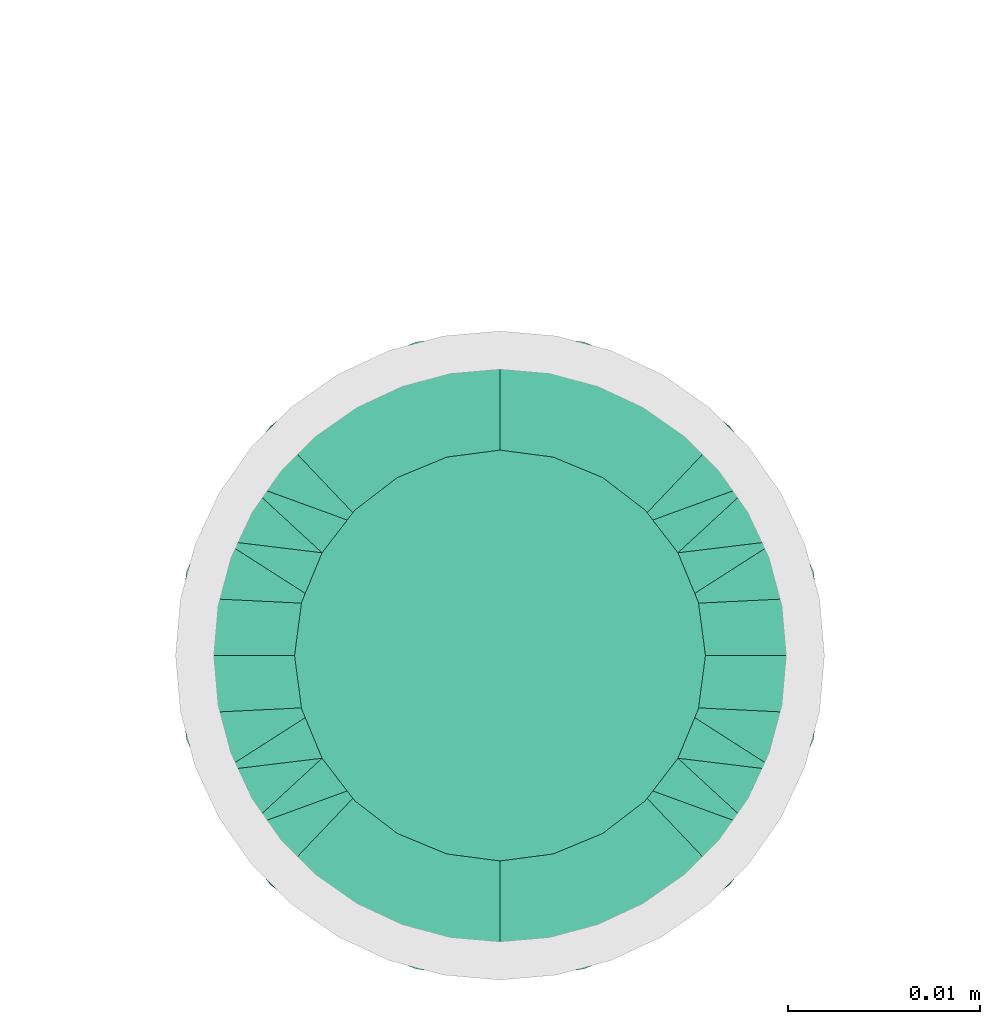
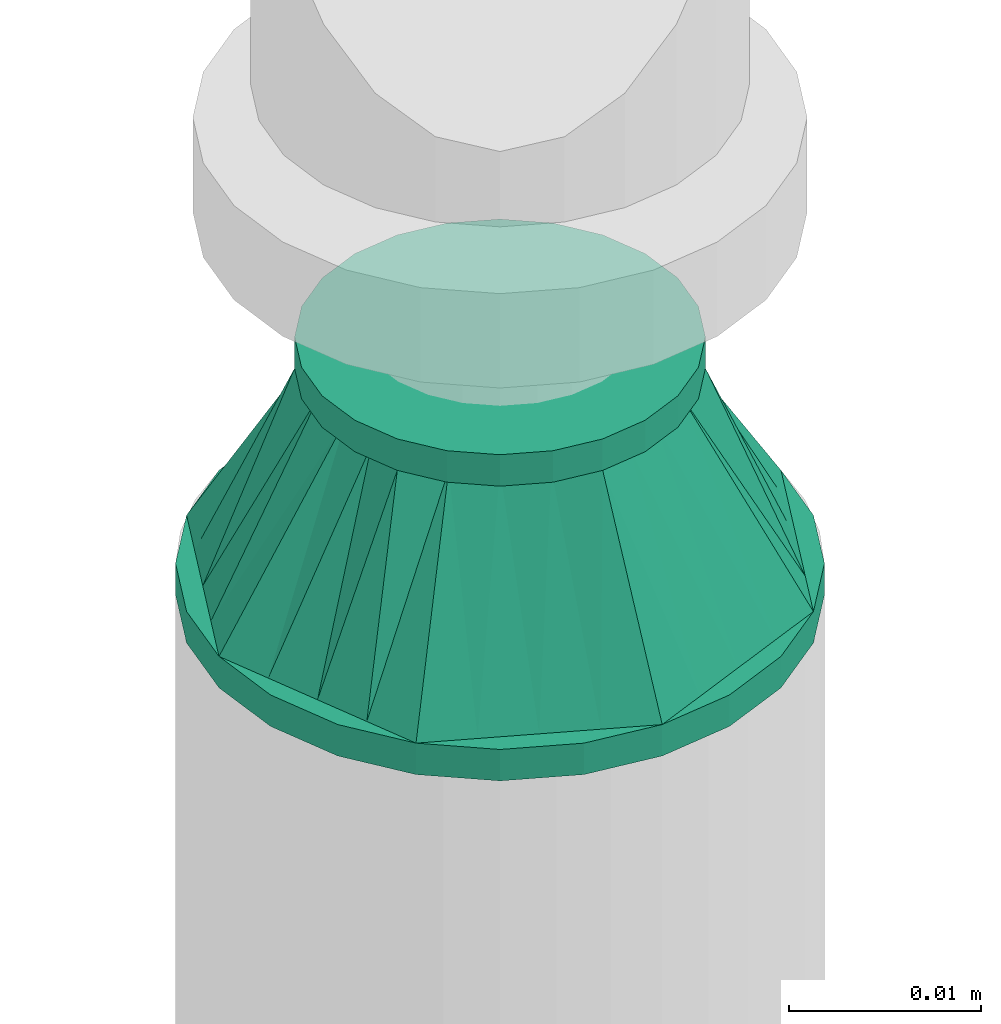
# One storey, part 9 of 44: 1 flow fitting.
"""IFC2X3 building model written with IfcOpenShell, lengths in millimetres."""

from ifc_helpers import new_model, entity, si_unit, converted_unit, derived_unit, direction, frame, origin_with_axes, place, context, subcontext, project, spatial, open_shell, surface_model, source, transform, mapped, type_object, element, save


model = new_model("IFC2X3")

# Units and contexts
model_context = context("Model", 3, precision=0.01, world=frame((0.0, 4.29681676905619e-09, 0.0)), true_north=direction((4.01073788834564e-13, 1.0)))
plan_context = context("Plan", 3, precision=0.01, world=frame((0.0, 4.29681676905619e-09, 0.0)), true_north=direction((4.01073788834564e-13, 1.0)))
body_context = subcontext(model_context, "Body", "Model", "MODEL_VIEW")
ifc_project = project(units=[converted_unit("PLANEANGLEUNIT", "DEGREE", entity("IfcPositiveLengthMeasure", 0.0174532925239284), si_unit("PLANEANGLEUNIT", "RADIAN"), dimensions=[0, 0, 0, 0, 0, 0, 0]), si_unit("AREAUNIT", "SQUARE_METRE"), si_unit("LENGTHUNIT", "METRE", prefix="MILLI"), si_unit("MASSUNIT", "GRAM", prefix="KILO"), si_unit("POWERUNIT", "WATT"), si_unit("PRESSUREUNIT", "PASCAL"), si_unit("FORCEUNIT", "NEWTON", prefix="KILO"), si_unit("ELECTRICVOLTAGEUNIT", "VOLT"), si_unit("ELECTRICCURRENTUNIT", "AMPERE"), si_unit("THERMODYNAMICTEMPERATUREUNIT", "DEGREE_CELSIUS"), si_unit("TIMEUNIT", "SECOND"), si_unit("VOLUMEUNIT", "CUBIC_METRE"), derived_unit("LINEARVELOCITYUNIT", [(si_unit("LENGTHUNIT", "METRE"), 1), (si_unit("TIMEUNIT", "SECOND"), -1)]), derived_unit("VOLUMETRICFLOWRATEUNIT", [(si_unit("VOLUMEUNIT", "CUBIC_METRE"), 1), (si_unit("TIMEUNIT", "SECOND"), -1)]), derived_unit("THERMALTRANSMITTANCEUNIT", [(si_unit("POWERUNIT", "WATT"), 1), (si_unit("THERMODYNAMICTEMPERATUREUNIT", "KELVIN"), -1), (si_unit("AREAUNIT", "SQUARE_METRE"), -1)]), derived_unit("SOUNDPRESSUREUNIT", [(si_unit("PRESSUREUNIT", "PASCAL"), 1)])], contexts=[model_context, plan_context])

# Site, building, storey
site_placement = place(None, frame((0.0, -4.29681676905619e-09, 0.0), z_axis=(0.0, 0.0, 1.0), x_axis=(1.0, 0.0, 0.0)))
site = spatial("IfcSite", under=ifc_project, at=site_placement, CompositionType="ELEMENT")
building_placement = place(site_placement, frame((0.0, 4.29681676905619e-09, 0.0), z_axis=(0.0, 0.0, 1.0), x_axis=(1.0, 0.0, 0.0)))
building = spatial("IfcBuilding", under=site, at=building_placement, Name="mc-building", CompositionType="ELEMENT")
storey_placement = place(building_placement, frame((0.0, 0.0, 207370.0), z_axis=(0.0, 0.0, 1.0), x_axis=(1.0, 0.0, 0.0)))
storey = spatial("IfcBuildingStorey", under=building, at=storey_placement, Name="Nivå E", CompositionType="ELEMENT", Elevation=207370.0)

# Flow fitting
pipe_fitting_type = type_object("IfcPipeFittingType", Name="magi_pipe_fe_reducer_centric_short_NOR", PredefinedType="TRANSITION")
shared_shape = source(origin_with_axes(), body_context, "Body", "SurfaceModel", [
    surface_model("IfcShellBasedSurfaceModel", [(-2.0, -7.56604, -7.56604), (-2.0, -10.33541, -2.76936), (-2.0, -5.35, -9.26647), (-2.0, 5.35, -9.26647), (-2.0, 10.33541, -2.76936), (-2.0, 7.56604, -7.56604), (12.4, 11.9501, 11.9501), (12.4, 0.0, 16.9), (12.4, 11.9501, -11.9501), (12.4, 16.9, 0.0), (0.0, -10.7, 0.0), (0.0, -5.35, 9.26647), (0.0, -5.35, -9.26647), (0.0, 10.7, 0.0), (12.4, 15.66253, -2.98753), (12.4, 8.96258, -13.18758), (0.0, 6.6875, -6.94985), (12.4, -15.66253, -2.98753), (12.4, -16.9, 0.0), (12.4, 5.97505, -14.42505), (0.0, 5.35, -9.26647), (12.4, 14.42505, -5.97505), (0.0, 8.025, -4.63324), (0.0, 9.3625, -2.31662), (0.0, -9.3625, -2.31662), (0.0, -8.025, -4.63324), (12.4, -14.42505, -5.97505), (12.4, 13.18758, -8.96258), (12.4, -13.18758, -8.96258), (12.4, -11.9501, -11.9501), (0.0, -6.6875, -6.94985), (12.4, -8.96258, -13.18758), (12.4, -5.97505, -14.42505), (12.4, -15.66253, 2.98753), (12.4, -8.96258, 13.18758), (0.0, -6.6875, 6.94985), (12.4, -11.9501, 11.9501), (12.4, 15.66253, 2.98753), (12.4, -5.97505, 14.42505), (12.4, -14.42505, 5.97505), (0.0, -8.025, 4.63324), (0.0, -9.3625, 2.31662), (0.0, 9.3625, 2.31662), (0.0, 8.025, 4.63324), (12.4, 14.42505, 5.97505), (12.4, -13.18758, 8.96258), (12.4, 13.18758, 8.96258), (0.0, 6.6875, 6.94985), (12.4, 8.96258, 13.18758), (0.0, 5.35, 9.26647), (12.4, 5.97505, 14.42505), (14.4, 4.37404, -16.32415), (14.4, 8.45, -14.63583), (14.4, 11.9501, -11.9501), (14.4, -8.45, -14.63583), (14.4, 16.32415, -4.37404), (14.4, 16.32415, 4.37404), (14.4, 14.63583, -8.45), (14.4, 0.0, -16.9), (14.4, -4.37404, -16.32415), (14.4, -11.9501, -11.9501), (14.4, -16.32415, -4.37404), (14.4, -14.63583, -8.45), (14.4, -16.32415, 4.37404), (14.4, 16.9, 0.0), (14.4, 14.63583, 8.45), (14.4, 11.9501, 11.9501), (14.4, 4.37404, 16.32415), (14.4, 8.45, 14.63583), (14.4, 0.0, 16.9), (14.4, -14.63583, 8.45), (14.4, -16.9, 0.0), (14.4, -8.45, 14.63583), (14.4, -11.9501, 11.9501), (14.4, -4.37404, 16.32415), (12.4, 4.37404, 16.32415), (12.4, -14.63583, 8.45), (12.4, 16.32415, 4.37404), (12.4, 8.45, 14.63583), (12.4, 14.63583, 8.45), (12.4, -8.45, 14.63583), (12.4, -4.37404, 16.32415), (12.4, -16.32415, 4.37404), (12.4, -16.32415, -4.37404), (12.4, -8.45, -14.63583), (12.4, 16.32415, -4.37404), (12.4, 14.63583, -8.45), (12.4, 8.45, -14.63583), (12.4, 4.37404, -16.32415), (12.4, 0.0, -16.9), (12.4, -14.63583, -8.45), (12.4, -4.37404, -16.32415), (-2.0, 2.76936, 10.33541), (-2.0, 0.0, 10.7), (-2.0, 5.35, 9.26647), (-2.0, 7.56604, 7.56604), (-2.0, 9.26647, 5.35), (-2.0, 10.33541, 2.76936), (-2.0, -10.33541, 2.76936), (-2.0, -2.76936, 10.33541), (-2.0, -7.56604, 7.56604), (-2.0, -5.35, 9.26647), (-2.0, -9.26647, 5.35), (-2.0, -10.7, 0.0), (-2.0, 9.26647, -5.35), (-2.0, 2.76936, -10.33541), (-2.0, -9.26647, -5.35), (-2.0, 0.0, -10.7), (-2.0, -2.76936, -10.33541), (-2.0, 10.7, 0.0), (0.0, 0.0, -10.7), (0.0, 2.76936, -10.33541), (0.0, 10.33541, -2.76936), (0.0, 7.56604, -7.56604), (0.0, -10.33541, -2.76936), (0.0, 9.26647, -5.35), (0.0, 0.0, 10.7), (0.0, -2.76936, -10.33541), (0.0, -7.56604, -7.56604), (0.0, -9.26647, -5.35), (0.0, 10.33541, 2.76936), (0.0, 9.26647, 5.35), (0.0, 7.56604, 7.56604), (0.0, 2.76936, 10.33541), (0.0, -7.56604, 7.56604), (0.0, -10.33541, 2.76936), (0.0, -9.26647, 5.35), (0.0, -2.76936, 10.33541), (0.0, 2.675, -9.26647), (0.0, -2.675, -9.26647), (12.4, 2.98753, -15.66253), (0.0, 0.0, -9.26647), (12.4, -2.98753, -15.66253), (0.0, -2.675, 9.26647), (0.0, 2.675, 9.26647), (12.4, -2.98753, 15.66253), (0.0, 0.0, 9.26647), (12.4, 2.98753, 15.66253)], [open_shell([[[0, 1, 2]], [[3, 4, 5]], [[6, 7, 8]], [[8, 9, 6]], [[10, 11, 12]], [[13, 9, 14]], [[15, 16, 8]], [[17, 18, 10]], [[15, 19, 20]], [[21, 22, 23]], [[24, 25, 26]], [[22, 21, 27]], [[28, 26, 25]], [[29, 30, 31]], [[12, 32, 31]], [[10, 18, 33]], [[34, 35, 36]], [[37, 9, 13]], [[34, 38, 11]], [[39, 40, 41]], [[42, 43, 44]], [[40, 39, 45]], [[46, 44, 43]], [[6, 47, 48]], [[49, 50, 48]], [[51, 52, 53]], [[54, 51, 53]], [[53, 55, 56]], [[55, 53, 57]], [[53, 56, 54]], [[58, 54, 59]], [[58, 51, 54]], [[60, 61, 62]], [[61, 60, 54]], [[54, 63, 61]], [[56, 55, 64]], [[56, 65, 66]], [[56, 66, 67]], [[67, 63, 54]], [[67, 66, 68]], [[63, 67, 69]], [[69, 70, 63]], [[71, 61, 63]], [[70, 72, 73]], [[70, 69, 72]], [[72, 69, 74]], [[54, 56, 67]], [[75, 76, 7]], [[77, 75, 78]], [[6, 79, 77]], [[6, 77, 78]], [[76, 75, 77]], [[80, 76, 36]], [[80, 81, 7]], [[7, 76, 80]], [[82, 76, 77]], [[82, 83, 18]], [[82, 77, 84]], [[77, 85, 8]], [[8, 85, 86]], [[8, 87, 88]], [[84, 77, 8]], [[88, 89, 8]], [[83, 29, 90]], [[29, 83, 84]], [[84, 89, 91]], [[83, 82, 84]], [[8, 89, 84]], [[85, 77, 9]], [[83, 61, 18]], [[90, 62, 83]], [[54, 29, 84]], [[90, 29, 60]], [[59, 84, 91]], [[83, 62, 61]], [[61, 71, 18]], [[59, 54, 84]], [[60, 29, 54]], [[60, 62, 90]], [[58, 59, 91]], [[91, 89, 58]], [[88, 51, 89]], [[87, 52, 88]], [[57, 8, 86]], [[87, 8, 53]], [[55, 86, 85]], [[87, 53, 52]], [[52, 51, 88]], [[64, 55, 85]], [[57, 86, 55]], [[57, 53, 8]], [[9, 64, 85]], [[89, 51, 58]], [[77, 56, 9]], [[79, 65, 77]], [[68, 6, 78]], [[79, 6, 66]], [[67, 78, 75]], [[77, 65, 56]], [[56, 64, 9]], [[67, 68, 78]], [[66, 6, 68]], [[66, 65, 79]], [[69, 67, 75]], [[75, 7, 69]], [[81, 74, 7]], [[80, 72, 81]], [[70, 36, 76]], [[80, 36, 73]], [[63, 76, 82]], [[80, 73, 72]], [[72, 74, 81]], [[71, 63, 82]], [[70, 76, 63]], [[70, 73, 36]], [[18, 71, 82]], [[7, 74, 69]], [[92, 1, 93]], [[94, 1, 92]], [[95, 96, 97]], [[95, 97, 94]], [[98, 93, 1]], [[99, 100, 101]], [[99, 93, 100]], [[100, 98, 102]], [[93, 98, 100]], [[98, 1, 103]], [[94, 97, 1]], [[1, 97, 4]], [[5, 4, 104]], [[4, 3, 1]], [[105, 1, 3]], [[1, 0, 106]], [[2, 107, 108]], [[2, 1, 105]], [[105, 107, 2]], [[4, 97, 109]], [[20, 110, 111]], [[112, 20, 113]], [[114, 20, 112]], [[112, 113, 115]], [[116, 114, 112]], [[110, 12, 117]], [[110, 20, 12]], [[118, 114, 119]], [[114, 118, 12]], [[20, 114, 12]], [[112, 13, 120]], [[120, 121, 122]], [[120, 122, 123]], [[116, 112, 123]], [[123, 122, 49]], [[116, 124, 114]], [[125, 124, 126]], [[10, 114, 125]], [[124, 127, 11]], [[125, 114, 124]], [[127, 124, 116]], [[123, 112, 120]], [[1, 114, 103]], [[106, 119, 1]], [[12, 0, 2]], [[106, 0, 118]], [[117, 2, 108]], [[1, 119, 114]], [[114, 10, 103]], [[117, 12, 2]], [[118, 0, 12]], [[118, 119, 106]], [[110, 117, 108]], [[108, 107, 110]], [[105, 111, 107]], [[3, 20, 105]], [[115, 5, 104]], [[3, 5, 113]], [[112, 104, 4]], [[3, 113, 20]], [[20, 111, 105]], [[13, 112, 4]], [[115, 104, 112]], [[115, 113, 5]], [[109, 13, 4]], [[107, 111, 110]], [[97, 120, 109]], [[96, 121, 97]], [[49, 95, 94]], [[96, 95, 122]], [[123, 94, 92]], [[97, 121, 120]], [[120, 13, 109]], [[123, 49, 94]], [[122, 95, 49]], [[122, 121, 96]], [[116, 123, 92]], [[92, 93, 116]], [[99, 127, 93]], [[101, 11, 99]], [[126, 100, 102]], [[101, 100, 124]], [[125, 102, 98]], [[101, 124, 11]], [[11, 127, 99]], [[10, 125, 98]], [[126, 102, 125]], [[126, 124, 100]], [[103, 10, 98]], [[93, 127, 116]], [[18, 7, 36]], [[18, 29, 8]], [[89, 8, 29]], [[18, 8, 7]], [[13, 11, 49]], [[13, 20, 12]], [[13, 12, 11]], [[24, 26, 17]], [[10, 24, 17]], [[16, 15, 20]], [[30, 12, 31]], [[23, 14, 21]], [[19, 128, 20]], [[27, 8, 16]], [[32, 12, 129]], [[30, 28, 25]], [[130, 131, 128]], [[129, 132, 32]], [[16, 22, 27]], [[13, 14, 23]], [[128, 19, 130]], [[130, 89, 131]], [[131, 132, 129]], [[89, 132, 131]], [[28, 30, 29]], [[42, 44, 37]], [[13, 42, 37]], [[35, 34, 11]], [[47, 49, 48]], [[41, 33, 39]], [[38, 133, 11]], [[45, 36, 35]], [[50, 49, 134]], [[47, 46, 43]], [[135, 136, 133]], [[134, 137, 50]], [[35, 40, 45]], [[10, 33, 41]], [[133, 38, 135]], [[135, 7, 136]], [[136, 137, 134]], [[7, 137, 136]], [[46, 47, 6]]])]),
])
flow_fitting_placement = place(storey_placement, frame((533500.0, 441009.83177, 3040.00555), z_axis=(1.0, 0.0, 0.0), x_axis=(0.0, 0.0, -1.0)))
element("IfcFlowFitting", 1, at=flow_fitting_placement, inside=storey, type_object=pipe_fitting_type, Name="magi_pipe_fe_reducer_centric_short_NOR", context=body_context, shape_type="MappedRepresentation", body=[
    mapped(shared_shape, transform((0.0, 0.0, 0.0), scale=1.0)),
])

save(model, "model.ifc")
